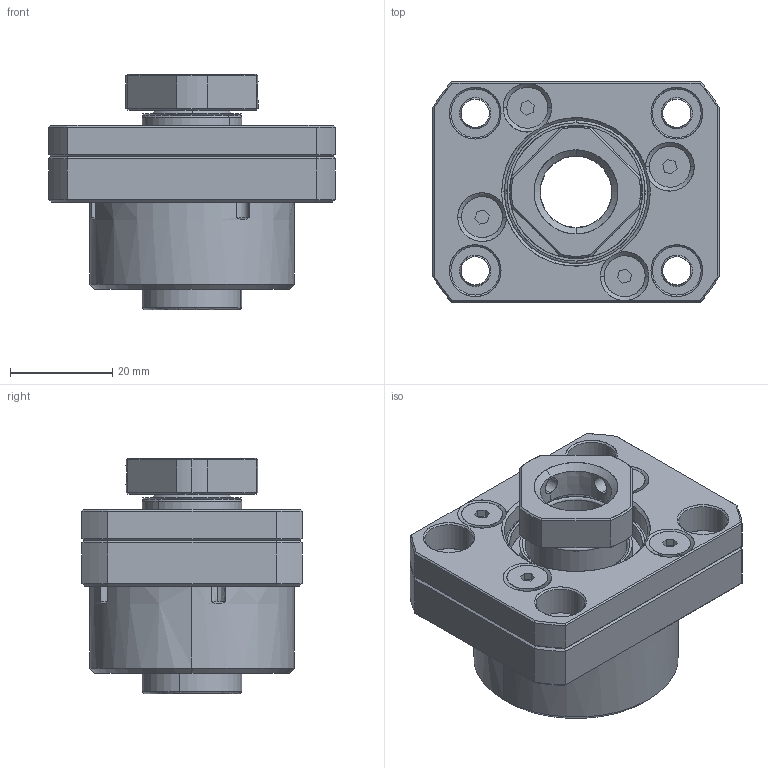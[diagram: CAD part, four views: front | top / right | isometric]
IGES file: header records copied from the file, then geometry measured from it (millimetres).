
Start section: SolidWorks IGES file using analytic representation for surfaces
Bounding box: 56 x 43 x 46 mm (x, y, z)
Surface area: 20615.7 mm2 (no closed solid volume)
Topology: 0 solids, 0 shells, 264 faces, 3276 edges, 3276 vertices
Faces by surface type: revolution 159, bspline 105
